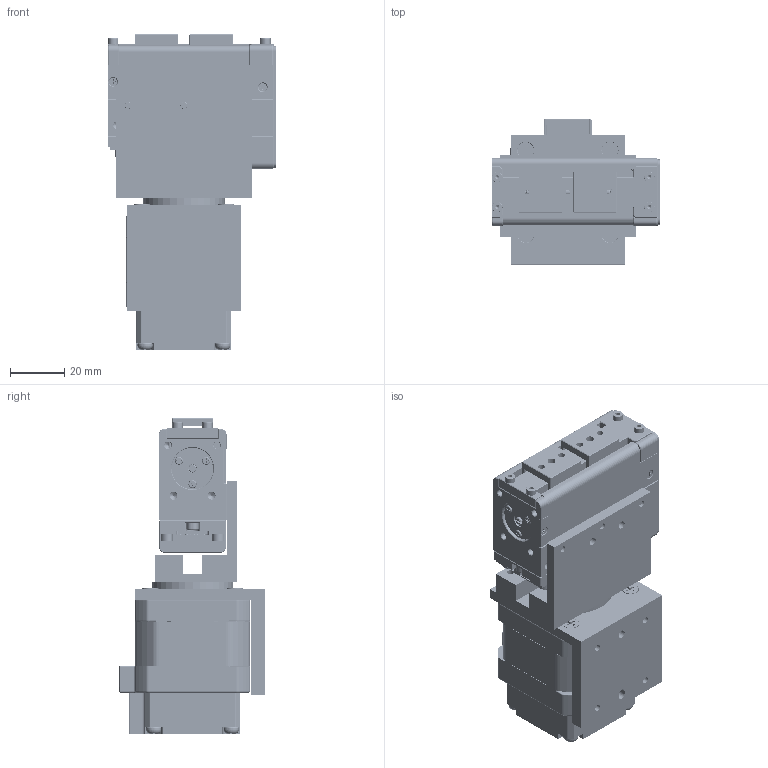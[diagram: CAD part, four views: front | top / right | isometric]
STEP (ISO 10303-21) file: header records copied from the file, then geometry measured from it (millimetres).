
FILE_DESCRIPTION (( 'STEP AP203' ), '1' );
FILE_NAME ('3KH05009-00(RGS42T-S0402-14DHD).STEP', '2023-08-10T05:51:02', ( '' ), ( '' ), 'SwSTEP 2.0', 'SolidWorks 2023', '' );
FILE_SCHEMA (( 'CONFIG_CONTROL_DESIGN' ));
Products named in the file (1): 3KH05009-00(RGS42T-S0402-14DHD)
Bounding box: 62 x 53.4 x 116.05 mm (x, y, z)
Volume: 120109.2 mm3; surface area: 120499 mm2
Topology: 117 solids, 117 shells, 6490 faces, 17790 edges, 11237 vertices
Faces by surface type: plane 3128, cylinder 2326, cone 447, torus 357, sphere 208, bspline 24
Entity records: 222945 total; most frequent: CARTESIAN_POINT 59666, ORIENTED_EDGE 34632, DIRECTION 34138, EDGE_CURVE 17316, AXIS2_PLACEMENT_3D 12013, VERTEX_POINT 11117, LINE 10112, VECTOR 10112
